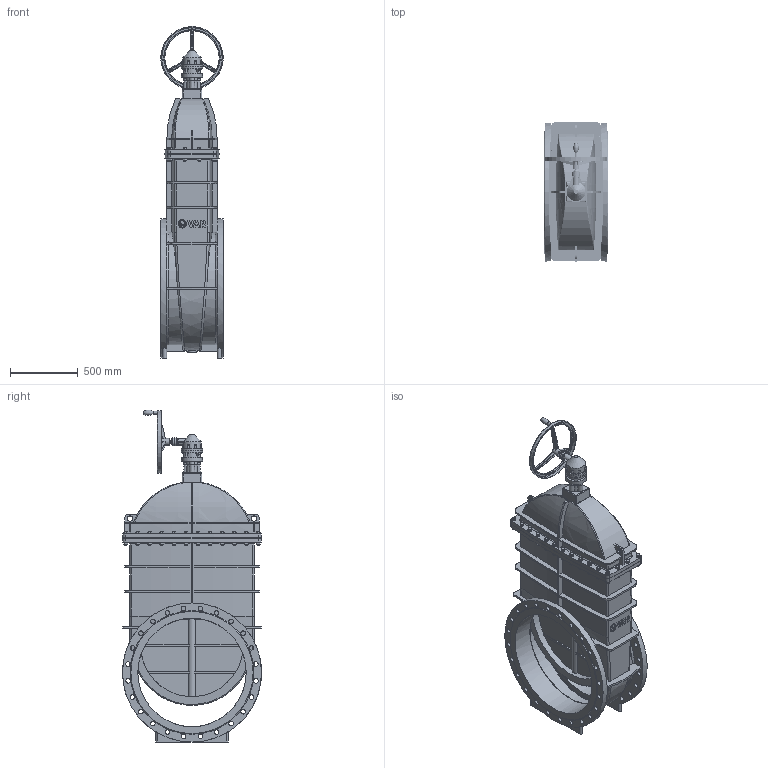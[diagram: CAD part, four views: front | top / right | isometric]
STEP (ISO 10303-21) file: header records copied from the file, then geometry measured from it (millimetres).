
FILE_DESCRIPTION(('STEP AP242'), '1');
FILE_NAME('青溻桄赅', '', ('UNSPECIFIED'), ('UNSPECIFIED'), 'C3D Converter', 'C3D Toolkit', '');
FILE_SCHEMA(('AP242_MANAGED_MODEL_BASED_3D_ENGINEERING_MIM_LF { 1 0 10303 442 1 1 4 }'));
Length unit declared in the file: millimetre
Assembly tree (195 placements, depth 2):
  (unnamed)
    (unnamed)
    (unnamed)
    (unnamed)
    (unnamed)  x2
    (unnamed)
    (unnamed)
    (unnamed)
    (unnamed)
    (unnamed)
    (unnamed)  x28
    (unnamed)  x56
    (unnamed)  x56
    (unnamed)  x28
    (unnamed)
    (unnamed)  x4
    (unnamed)  x12
Bounding box: 470 x 1025 x 2447.32 mm (x, y, z)
Volume: 141335760.5 mm3; surface area: 14453423.8 mm2
Topology: 201 solids, 201 shells, 3206 faces, 7240 edges, 4544 vertices
Faces by surface type: plane 1719, cylinder 752, cone 408, extrusion 161, torus 84, bspline 82
Full cylindrical faces by diameter (mm): 3 x12, 4 x36, 6 x7, 7 x12, 8 x12, 12 x8, 13 x4, 13.835 x28, 16 x28, 17.5 x56, 18 x88, 20 x5, 24 x28, 28 x56, 30 x9, 34 x48, 40 x3, 50 x1, 58.667 x5, 60 x3, 61.586 x1, 122.754 x2, 138.859 x1, 154.965 x3, 400 x1, 410 x1, 450 x1, 460 x1, 757 x2, 800 x4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
Entity records: 69373 total; most frequent: CARTESIAN_POINT 30811, ORIENTED_EDGE 6218, DIRECTION 6097, EDGE_CURVE 3109, AXIS2_PLACEMENT_3D 2307, VERTEX_POINT 2194, EDGE_LOOP 1998, VECTOR 1483
